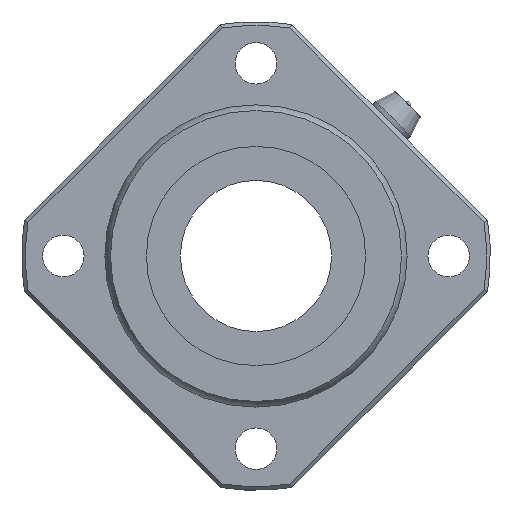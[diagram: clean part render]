
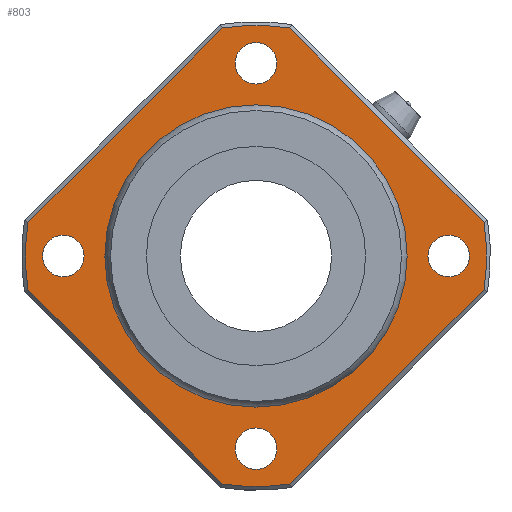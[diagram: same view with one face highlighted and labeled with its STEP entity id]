
A CAD part, left-side view. The second image highlights one B-rep face of the part: STEP entity #803.
In plain terms, the highlighted planar face has unit normal (-1, 0, 0).
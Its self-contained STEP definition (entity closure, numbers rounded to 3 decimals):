
#490=CARTESIAN_POINT('',(40.0,-4.479,-30.169));
#491=VERTEX_POINT('',#490);
#499=CARTESIAN_POINT('',(40.0,4.479,-30.169));
#500=VERTEX_POINT('',#499);
#501=CARTESIAN_POINT('',(40.0,0.0,0.0));
#502=DIRECTION('',(1.0,0.0,0.0));
#503=DIRECTION('',(0.0,0.0,-1.0));
#504=AXIS2_PLACEMENT_3D('',#501,#502,#503);
#505=CIRCLE('',#504,30.5);
#506=EDGE_CURVE('',#491,#500,#505,.T.);
#525=CARTESIAN_POINT('',(40.0,30.169,-4.479));
#526=VERTEX_POINT('',#525);
#527=CARTESIAN_POINT('',(40.0,4.479,-30.169));
#528=DIRECTION('',(0.0,0.707,0.707));
#529=VECTOR('',#528,36.332);
#530=LINE('',#527,#529);
#531=EDGE_CURVE('',#500,#526,#530,.T.);
#558=CARTESIAN_POINT('',(40.0,30.169,4.479));
#559=VERTEX_POINT('',#558);
#560=CARTESIAN_POINT('',(40.0,0.0,0.0));
#561=DIRECTION('',(1.0,0.0,0.0));
#562=DIRECTION('',(0.0,0.0,1.0));
#563=AXIS2_PLACEMENT_3D('',#560,#561,#562);
#564=CIRCLE('',#563,30.5);
#565=EDGE_CURVE('',#526,#559,#564,.T.);
#591=CARTESIAN_POINT('',(40.0,4.479,30.169));
#592=VERTEX_POINT('',#591);
#593=CARTESIAN_POINT('',(40.0,30.169,4.479));
#594=DIRECTION('',(0.0,-0.707,0.707));
#595=VECTOR('',#594,36.332);
#596=LINE('',#593,#595);
#597=EDGE_CURVE('',#559,#592,#596,.T.);
#624=CARTESIAN_POINT('',(40.0,-4.479,30.169));
#625=VERTEX_POINT('',#624);
#626=CARTESIAN_POINT('',(40.0,0.0,0.0));
#627=DIRECTION('',(1.0,0.0,0.0));
#628=DIRECTION('',(0.0,0.0,1.0));
#629=AXIS2_PLACEMENT_3D('',#626,#627,#628);
#630=CIRCLE('',#629,30.5);
#631=EDGE_CURVE('',#592,#625,#630,.T.);
#655=CARTESIAN_POINT('',(40.0,-30.169,4.479));
#656=VERTEX_POINT('',#655);
#657=CARTESIAN_POINT('',(40.0,-4.479,30.169));
#658=DIRECTION('',(0.0,-0.707,-0.707));
#659=VECTOR('',#658,36.332);
#660=LINE('',#657,#659);
#661=EDGE_CURVE('',#625,#656,#660,.T.);
#680=CARTESIAN_POINT('',(40.0,-30.169,-4.479));
#681=VERTEX_POINT('',#680);
#682=CARTESIAN_POINT('',(40.0,0.0,0.0));
#683=DIRECTION('',(1.0,0.0,0.0));
#684=DIRECTION('',(0.0,0.0,1.0));
#685=AXIS2_PLACEMENT_3D('',#682,#683,#684);
#686=CIRCLE('',#685,30.5);
#687=EDGE_CURVE('',#656,#681,#686,.T.);
#706=CARTESIAN_POINT('',(40.0,-30.169,-4.479));
#707=DIRECTION('',(0.0,0.707,-0.707));
#708=VECTOR('',#707,36.332);
#709=LINE('',#706,#708);
#710=EDGE_CURVE('',#681,#491,#709,.T.);
#733=CARTESIAN_POINT('',(40.0,0.0,25.282));
#734=DIRECTION('',(-1.0,0.0,0.0));
#735=DIRECTION('',(0.0,0.0,1.0));
#736=AXIS2_PLACEMENT_3D('',#733,#734,#735);
#737=PLANE('',#736);
#738=ORIENTED_EDGE('',*,*,#506,.F.);
#739=ORIENTED_EDGE('',*,*,#710,.F.);
#740=ORIENTED_EDGE('',*,*,#687,.F.);
#741=ORIENTED_EDGE('',*,*,#661,.F.);
#742=ORIENTED_EDGE('',*,*,#631,.F.);
#743=ORIENTED_EDGE('',*,*,#597,.F.);
#744=ORIENTED_EDGE('',*,*,#565,.F.);
#745=ORIENTED_EDGE('',*,*,#531,.F.);
#746=EDGE_LOOP('',(#738,#739,#740,#741,#742,#743,#744,#745));
#747=FACE_OUTER_BOUND('',#746,.T.);
#748=CARTESIAN_POINT('',(40.0,0.0,19.564));
#749=VERTEX_POINT('',#748);
#750=CARTESIAN_POINT('',(40.0,0.0,0.0));
#751=DIRECTION('',(-1.0,0.0,0.0));
#752=DIRECTION('',(0.0,0.0,1.0));
#753=AXIS2_PLACEMENT_3D('',#750,#751,#752);
#754=CIRCLE('',#753,19.564);
#755=EDGE_CURVE('',#749,#749,#754,.T.);
#756=ORIENTED_EDGE('',*,*,#755,.F.);
#757=EDGE_LOOP('',(#756));
#758=FACE_BOUND('',#757,.T.);
#759=CARTESIAN_POINT('',(40.0,22.75,0.));
#760=VERTEX_POINT('',#759);
#761=CARTESIAN_POINT('',(40.0,25.5,0.));
#762=DIRECTION('',(1.0,0.0,0.0));
#763=DIRECTION('',(0.0,1.0,0.0));
#764=AXIS2_PLACEMENT_3D('',#761,#762,#763);
#765=CIRCLE('',#764,2.75);
#766=EDGE_CURVE('',#760,#760,#765,.T.);
#767=ORIENTED_EDGE('',*,*,#766,.T.);
#768=EDGE_LOOP('',(#767));
#769=FACE_BOUND('',#768,.T.);
#770=CARTESIAN_POINT('',(40.0,-28.25,0.));
#771=VERTEX_POINT('',#770);
#772=CARTESIAN_POINT('',(40.0,-25.5,0.));
#773=DIRECTION('',(1.0,0.0,0.0));
#774=DIRECTION('',(0.0,1.0,0.0));
#775=AXIS2_PLACEMENT_3D('',#772,#773,#774);
#776=CIRCLE('',#775,2.75);
#777=EDGE_CURVE('',#771,#771,#776,.T.);
#778=ORIENTED_EDGE('',*,*,#777,.T.);
#779=EDGE_LOOP('',(#778));
#780=FACE_BOUND('',#779,.T.);
#781=CARTESIAN_POINT('',(40.0,-2.75,25.5));
#782=VERTEX_POINT('',#781);
#783=CARTESIAN_POINT('',(40.0,0.,25.5));
#784=DIRECTION('',(1.0,0.0,0.0));
#785=DIRECTION('',(0.0,1.0,0.0));
#786=AXIS2_PLACEMENT_3D('',#783,#784,#785);
#787=CIRCLE('',#786,2.75);
#788=EDGE_CURVE('',#782,#782,#787,.T.);
#789=ORIENTED_EDGE('',*,*,#788,.T.);
#790=EDGE_LOOP('',(#789));
#791=FACE_BOUND('',#790,.T.);
#792=CARTESIAN_POINT('',(40.0,-2.75,-25.5));
#793=VERTEX_POINT('',#792);
#794=CARTESIAN_POINT('',(40.0,0.,-25.5));
#795=DIRECTION('',(1.0,0.0,0.0));
#796=DIRECTION('',(0.0,1.0,0.0));
#797=AXIS2_PLACEMENT_3D('',#794,#795,#796);
#798=CIRCLE('',#797,2.75);
#799=EDGE_CURVE('',#793,#793,#798,.T.);
#800=ORIENTED_EDGE('',*,*,#799,.T.);
#801=EDGE_LOOP('',(#800));
#802=FACE_BOUND('',#801,.T.);
#803=ADVANCED_FACE('',(#747,#758,#769,#780,#791,#802),#737,.T.);
